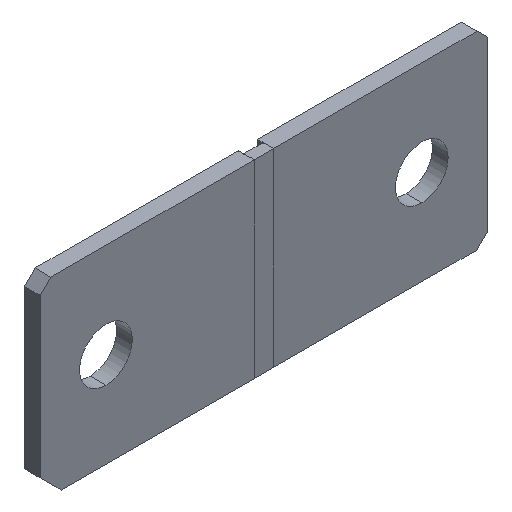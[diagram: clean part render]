
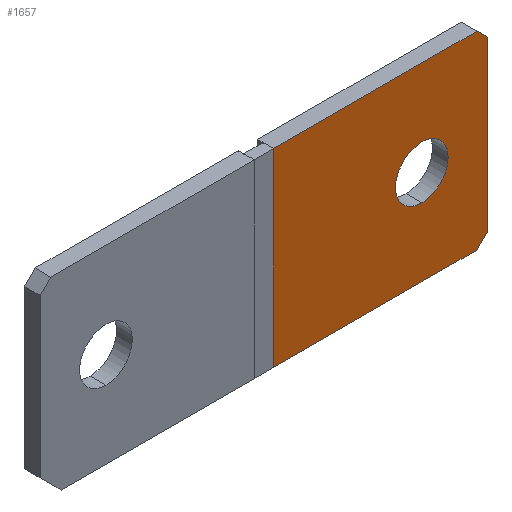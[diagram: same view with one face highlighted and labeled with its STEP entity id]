
A CAD part, isometric view. The second image highlights one B-rep face of the part: STEP entity #1657.
In plain terms, the highlighted planar face has unit normal (0, -1, 0).
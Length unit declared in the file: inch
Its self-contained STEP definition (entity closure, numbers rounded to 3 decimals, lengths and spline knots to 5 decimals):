
#82 = CARTESIAN_POINT ( 'NONE',  ( -0.56892, 0., -0.58902 ) ) ;
#103 = DIRECTION ( 'NONE',  ( 0., 1., 0. ) ) ;
#128 = VERTEX_POINT ( 'NONE', #1862 ) ;
#134 = VERTEX_POINT ( 'NONE', #1187 ) ;
#136 = CARTESIAN_POINT ( 'NONE',  ( 0.53958, 0., 0.31648 ) ) ;
#211 = CARTESIAN_POINT ( 'NONE',  ( 0.95258, 0., -0.58902 ) ) ;
#272 = DIRECTION ( 'NONE',  ( 0.707, 0., -0.707 ) ) ;
#310 = VERTEX_POINT ( 'NONE', #368 ) ;
#339 = DIRECTION ( 'NONE',  ( -1., 0., 0. ) ) ;
#368 = CARTESIAN_POINT ( 'NONE',  ( 1.03158, 0., -0.51002 ) ) ;
#385 = VECTOR ( 'NONE', #555, 39.37008 ) ;
#399 = VECTOR ( 'NONE', #272, 39.37008 ) ;
#422 = EDGE_LOOP ( 'NONE', ( #1320, #1977 ) ) ;
#434 = LINE ( 'NONE', #2140, #399 ) ;
#448 = ORIENTED_EDGE ( 'NONE', *, *, #1867, .F. ) ;
#455 = VERTEX_POINT ( 'NONE', #1260 ) ;
#475 = CARTESIAN_POINT ( 'NONE',  ( 1.03158, 0., 0.74898 ) ) ;
#555 = DIRECTION ( 'NONE',  ( -0.707, 0., -0.707 ) ) ;
#669 = CARTESIAN_POINT ( 'NONE',  ( -0.56892, 0., -0.58902 ) ) ;
#672 = VERTEX_POINT ( 'NONE', #136 ) ;
#680 = VECTOR ( 'NONE', #2037, 39.37008 ) ;
#689 = VERTEX_POINT ( 'NONE', #475 ) ;
#744 = VERTEX_POINT ( 'NONE', #2053 ) ;
#755 = CARTESIAN_POINT ( 'NONE',  ( -0.56892, 0., 0.82798 ) ) ;
#757 = FACE_BOUND ( 'NONE', #422, .T. ) ;
#873 = DIRECTION ( 'NONE',  ( 0., 1., 0. ) ) ;
#875 = AXIS2_PLACEMENT_3D ( 'NONE', #1740, #873, #1208 ) ;
#880 = EDGE_CURVE ( 'NONE', #1362, #128, #1129, .T. ) ;
#915 = VECTOR ( 'NONE', #951, 39.37008 ) ;
#929 = CIRCLE ( 'NONE', #875, 0.197 ) ;
#951 = DIRECTION ( 'NONE',  ( 1., 0., 0. ) ) ;
#965 = EDGE_CURVE ( 'NONE', #134, #1362, #1271, .T. ) ;
#969 = FACE_OUTER_BOUND ( 'NONE', #2183, .T. ) ;
#982 = LINE ( 'NONE', #669, #1409 ) ;
#999 = CARTESIAN_POINT ( 'NONE',  ( 1.03158, 0., -0.51002 ) ) ;
#1103 = CARTESIAN_POINT ( 'NONE',  ( 0., 0., 0. ) ) ;
#1119 = AXIS2_PLACEMENT_3D ( 'NONE', #1567, #1556, #2061 ) ;
#1129 = LINE ( 'NONE', #1778, #915 ) ;
#1142 = EDGE_CURVE ( 'NONE', #455, #672, #929, .T. ) ;
#1187 = CARTESIAN_POINT ( 'NONE',  ( -0.56892, 0., -0.58902 ) ) ;
#1208 = DIRECTION ( 'NONE',  ( 0., 0., 1. ) ) ;
#1260 = CARTESIAN_POINT ( 'NONE',  ( 0.53958, 0., -0.07752 ) ) ;
#1271 = LINE ( 'NONE', #82, #2087 ) ;
#1306 = ORIENTED_EDGE ( 'NONE', *, *, #1646, .F. ) ;
#1320 = ORIENTED_EDGE ( 'NONE', *, *, #1776, .T. ) ;
#1340 = ORIENTED_EDGE ( 'NONE', *, *, #1544, .F. ) ;
#1349 = LINE ( 'NONE', #999, #680 ) ;
#1356 = AXIS2_PLACEMENT_3D ( 'NONE', #1103, #103, #1637 ) ;
#1362 = VERTEX_POINT ( 'NONE', #755 ) ;
#1409 = VECTOR ( 'NONE', #339, 39.37008 ) ;
#1441 = PLANE ( 'NONE',  #1356 ) ;
#1512 = ORIENTED_EDGE ( 'NONE', *, *, #880, .F. ) ;
#1544 = EDGE_CURVE ( 'NONE', #310, #744, #1743, .T. ) ;
#1556 = DIRECTION ( 'NONE',  ( 0., 1., 0. ) ) ;
#1567 = CARTESIAN_POINT ( 'NONE',  ( 0.53958, 0., 0.11948 ) ) ;
#1596 = CIRCLE ( 'NONE', #1119, 0.197 ) ;
#1637 = DIRECTION ( 'NONE',  ( 0., 0., 1. ) ) ;
#1646 = EDGE_CURVE ( 'NONE', #128, #689, #434, .T. ) ;
#1657 = ADVANCED_FACE ( 'NONE', ( #757, #969 ), #1441, .F. ) ;
#1690 = EDGE_CURVE ( 'NONE', #689, #310, #1349, .T. ) ;
#1740 = CARTESIAN_POINT ( 'NONE',  ( 0.53958, 0., 0.11948 ) ) ;
#1743 = LINE ( 'NONE', #211, #385 ) ;
#1776 = EDGE_CURVE ( 'NONE', #672, #455, #1596, .T. ) ;
#1778 = CARTESIAN_POINT ( 'NONE',  ( -0.56892, 0., 0.82798 ) ) ;
#1785 = ORIENTED_EDGE ( 'NONE', *, *, #965, .F. ) ;
#1862 = CARTESIAN_POINT ( 'NONE',  ( 0.95258, 0., 0.82798 ) ) ;
#1867 = EDGE_CURVE ( 'NONE', #744, #134, #982, .T. ) ;
#1956 = DIRECTION ( 'NONE',  ( 0., 0., 1. ) ) ;
#1977 = ORIENTED_EDGE ( 'NONE', *, *, #1142, .T. ) ;
#2037 = DIRECTION ( 'NONE',  ( 0., 0., -1. ) ) ;
#2053 = CARTESIAN_POINT ( 'NONE',  ( 0.95258, 0., -0.58902 ) ) ;
#2061 = DIRECTION ( 'NONE',  ( 0., 0., 1. ) ) ;
#2087 = VECTOR ( 'NONE', #1956, 39.37008 ) ;
#2106 = ORIENTED_EDGE ( 'NONE', *, *, #1690, .F. ) ;
#2140 = CARTESIAN_POINT ( 'NONE',  ( 0.95258, 0., 0.82798 ) ) ;
#2183 = EDGE_LOOP ( 'NONE', ( #1785, #448, #1340, #2106, #1306, #1512 ) ) ;
